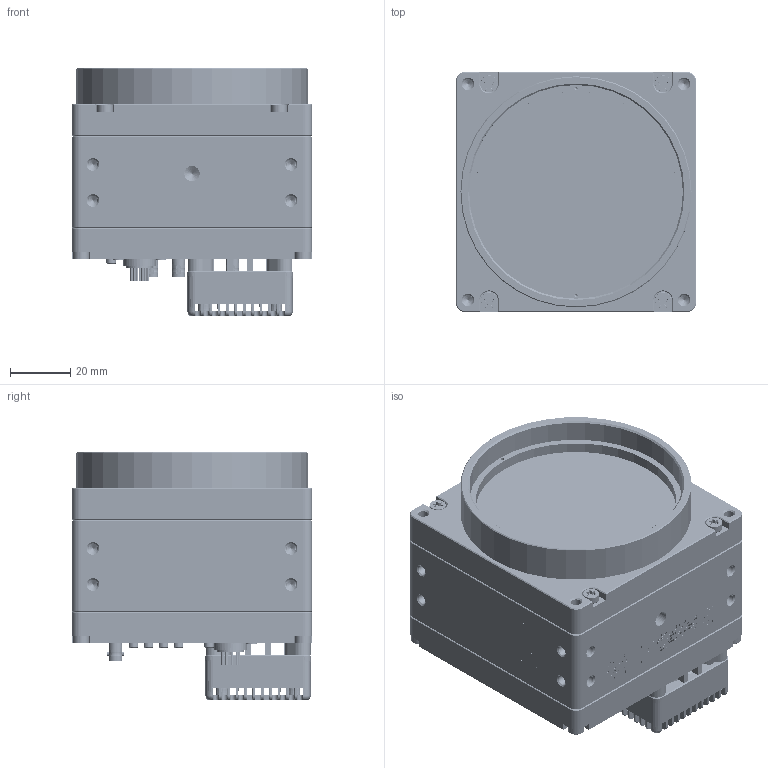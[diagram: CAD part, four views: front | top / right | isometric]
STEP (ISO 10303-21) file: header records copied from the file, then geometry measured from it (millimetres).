
FILE_DESCRIPTION (( 'STEP AP214' ), '1' );
FILE_NAME ('F004141-01001 SHR661MCX.STEP', '2021-08-26T15:41:29', ( '' ), ( '' ), 'SwSTEP 2.0', 'SolidWorks 2021', '' );
FILE_SCHEMA (( 'AUTOMOTIVE_DESIGN' ));
Length unit declared in the file: millimetre
Products named in the file (33): E001484-00000 Kühlpad 35 x 5 x 2 mm; N000031-00000 SCHRAUBE M2x4 Torx ISO14583_M2x04; N000064-00000 Abstandsbolzen M2x10_Abstandshalter M2x8; E001485-00000 Kühlpad 27x27x1,5mm; N000096-00000 Senkkopfschraube ISO 14581 A2 M2x16; E002258-00000 M2x4 FK; F004141-01001 SHR661MCX; N000081-00000 Zylinderstift ISO 2338 2m6 x 8 Edelstahl; E011365-00000 HDBNC-J-P-GN-ST-BH1_Samtec; E006077-01001 SHR661xCX12 Mittelteil  Fertigteil - lackiert und Tampondruck_Step; E002973-01001 SHR661xCX12 R點kplatte Fertigteil-lackiert und Tampondruck_CL R乧kplatte mit Laserbeschriftung; E004036-01001 Deckglas SHR d_71; IMX661 AAQR; IMX661 AAQR Glass; E004054-01001 Distanzring SHR411 f黵 Deckglas d=71,0; HRS12 Mutter; HRS10A-12R-12PB(71) Body; HRS10A Pin; E001480-00000 Kühlpad 18 x 18 x1,5mm; E002955-01001 Lüfterkäfig leise Spritzguss Kunststoff; N000054-00000 Schraube M3x12 Torx ISO14580; E002734-02001 Bügel Sensor IMX411; E002844-02001 Frontplatte SHR411 Lackierstufe Fertigteil - lackiert_Standard 19,55mm mit Schutzglas; E002082 Lichtleiter Mentor 1282.2000; E002478-01002 Haltering SHR47051 f黵 Deckglas d_71; Mutter-HDBNC-NUT-001-N; IMX661 AAQR Base; E002740-01001 Lüfter HR2 - Fan axial 30x30x10mm 5VDC Tacho; N000053-00000 Inbusschrauben M2x8 DIN912 Edelstahl; E011020-0000 Connector Gehäuse Molex 510210400; E002400-03001 Montage Flansch HRS10A; Baugruppe Sensor-Bügel_IMX661; HRS10A-12R-12PB(71)
Assembly tree (81 placements, depth 4):
  F004141-01001 SHR661MCX
    Baugruppe Sensor-Bügel_IMX661
      E002734-02001 Bügel Sensor IMX411  x2
      IMX661 AAQR
        IMX661 AAQR Base
        IMX661 AAQR Glass
    E002844-02001 Frontplatte SHR411 Lackierstufe Fertigteil - lackiert_Standard 19,55mm mit Schutzglas
    E004036-01001 Deckglas SHR d_71
    E004054-01001 Distanzring SHR411 f黵 Deckglas d=71,0
    E002478-01002 Haltering SHR47051 f黵 Deckglas d_71
    E002973-01001 SHR661xCX12 R點kplatte Fertigteil-lackiert und Tampondruck_CL R乧kplatte mit Laserbeschriftung
    E006077-01001 SHR661xCX12 Mittelteil  Fertigteil - lackiert und Tampondruck_Step
    E001480-00000 Kühlpad 18 x 18 x1,5mm
    E001484-00000 Kühlpad 35 x 5 x 2 mm  x2
    E002740-01001 Lüfter HR2 - Fan axial 30x30x10mm 5VDC Tacho
    E002955-01001 Lüfterkäfig leise Spritzguss Kunststoff
    E002258-00000 M2x4 FK  x6
    E002082 Lichtleiter Mentor 1282.2000  x5
    N000054-00000 Schraube M3x12 Torx ISO14580  x8
    N000081-00000 Zylinderstift ISO 2338 2m6 x 8 Edelstahl  x4
    N000096-00000 Senkkopfschraube ISO 14581 A2 M2x16  x3
    N000031-00000 SCHRAUBE M2x4 Torx ISO14583_M2x04  x4
    E002400-03001 Montage Flansch HRS10A
    HRS12 Mutter
    N000053-00000 Inbusschrauben M2x8 DIN912 Edelstahl  x4
    N000064-00000 Abstandsbolzen M2x10_Abstandshalter M2x8  x4
    E001485-00000 Kühlpad 27x27x1,5mm
    E011365-00000 HDBNC-J-P-GN-ST-BH1_Samtec  x4
    Mutter-HDBNC-NUT-001-N  x4
    E011020-0000 Connector Gehäuse Molex 510210400
    HRS10A-12R-12PB(71)
      HRS10A Pin  x12
      HRS10A-12R-12PB(71) Body
Bounding box: 80 x 80 x 82.85 mm (x, y, z)
Volume: 159937.2 mm3; surface area: 130988.2 mm2
Topology: 78 solids, 78 shells, 11864 faces, 30047 edges, 19492 vertices
Faces by surface type: plane 5294, bspline 3841, cylinder 1901, cone 538, torus 242, sphere 48
Full cylindrical faces by diameter (mm): 0.8 x36, 1 x598, 1.1 x2, 1.2 x12, 1.6 x13, 1.674 x52, 1.8 x8, 1.98 x2, 2 x24, 2.05 x2, 2.1 x2, 2.5 x8, 2.8 x5, 2.85 x5, 2.96 x8, 3 x1, 3.1 x2, 3.2 x12, 3.3 x20, 3.4 x4, 3.5 x6, 4 x10, 4.2 x4, 5 x4, 5.105 x1, 5.4 x8, 8.25 x4, 9 x1, 10.5 x1, 11 x1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
Entity records: 431589 total; most frequent: CARTESIAN_POINT 126767, ORIENTED_EDGE 50560, DIRECTION 33958, EDGE_CURVE 25280, VERTEX_POINT 17105, VECTOR 14302, LINE 14302, EDGE_LOOP 12553
